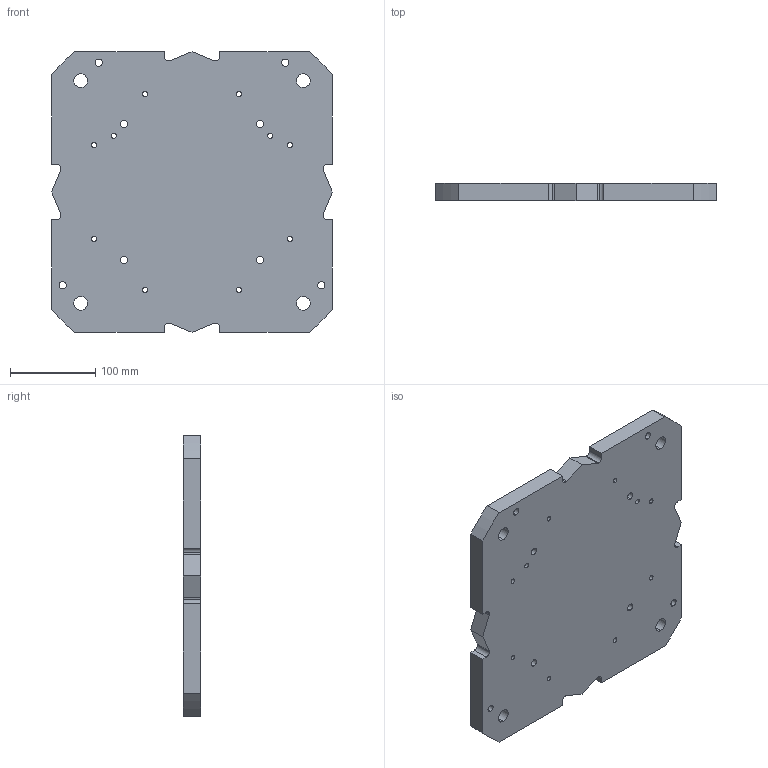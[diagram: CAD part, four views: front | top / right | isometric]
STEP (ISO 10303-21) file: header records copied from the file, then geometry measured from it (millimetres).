
FILE_DESCRIPTION (( 'STEP AP214' ), '1' );
FILE_NAME ('c-baseplate.STEP', '2025-12-05T11:32:27', ( '' ), ( '' ), 'SwSTEP 2.0', 'SolidWorks 2022', '' );
FILE_SCHEMA (( 'AUTOMOTIVE_DESIGN' ));
Length unit declared in the file: millimetre
Products named in the file (1): c-baseplate
Bounding box: 330 x 20 x 330 mm (x, y, z)
Volume: 2086495.1 mm3; surface area: 247603.1 mm2
Topology: 1 solids, 1 shells, 90 faces, 264 edges, 176 vertices
Faces by surface type: cylinder 64, plane 26
Entity records: 3354 total; most frequent: DIRECTION 574, CARTESIAN_POINT 531, ORIENTED_EDGE 528, EDGE_CURVE 264, AXIS2_PLACEMENT_3D 219, VERTEX_POINT 176, VECTOR 136, LINE 136
